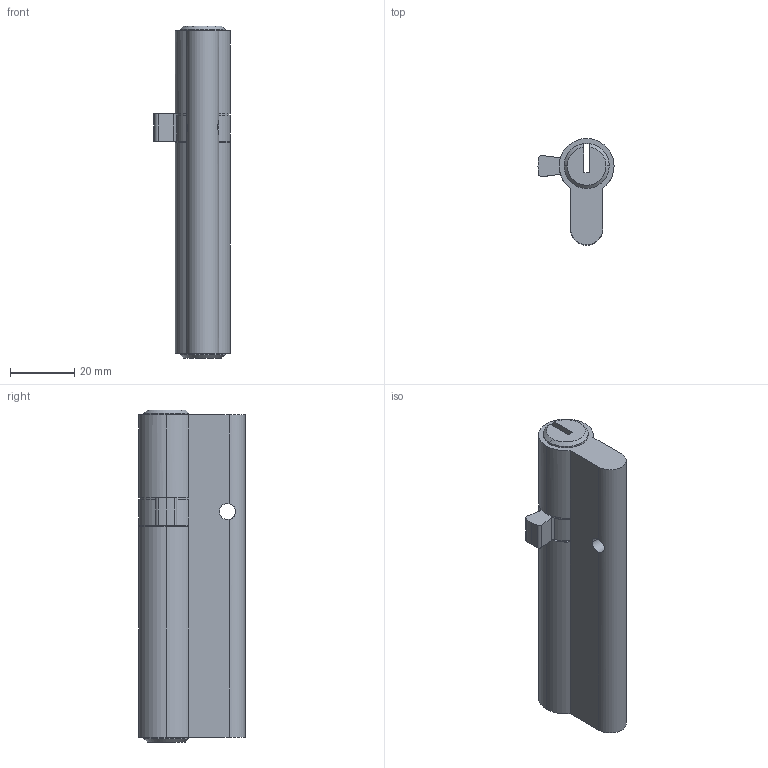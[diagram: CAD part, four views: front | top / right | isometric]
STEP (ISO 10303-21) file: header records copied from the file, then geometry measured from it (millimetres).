
FILE_DESCRIPTION (( 'STEP AP214' ), '1' );
FILE_NAME ('TPL-H-EU-523-R 29Oct2024.STEP', '2024-10-29T22:31:43', ( '' ), ( '' ), 'SwSTEP 2.0', 'SolidWorks 2023', '' );
FILE_SCHEMA (( 'AUTOMOTIVE_DESIGN' ));
Length unit declared in the file: millimetre
Products named in the file (1): TPL-H-EU-523-R 29Oct2024
Bounding box: 23.6 x 33 x 103 mm (x, y, z)
Volume: 37012.7 mm3; surface area: 11790.8 mm2
Topology: 1 solids, 1 shells, 52 faces, 144 edges, 90 vertices
Faces by surface type: cylinder 30, plane 16, cone 6
Entity records: 1775 total; most frequent: CARTESIAN_POINT 363, DIRECTION 314, ORIENTED_EDGE 288, EDGE_CURVE 144, AXIS2_PLACEMENT_3D 125, VERTEX_POINT 90, CIRCLE 72, LINE 64
